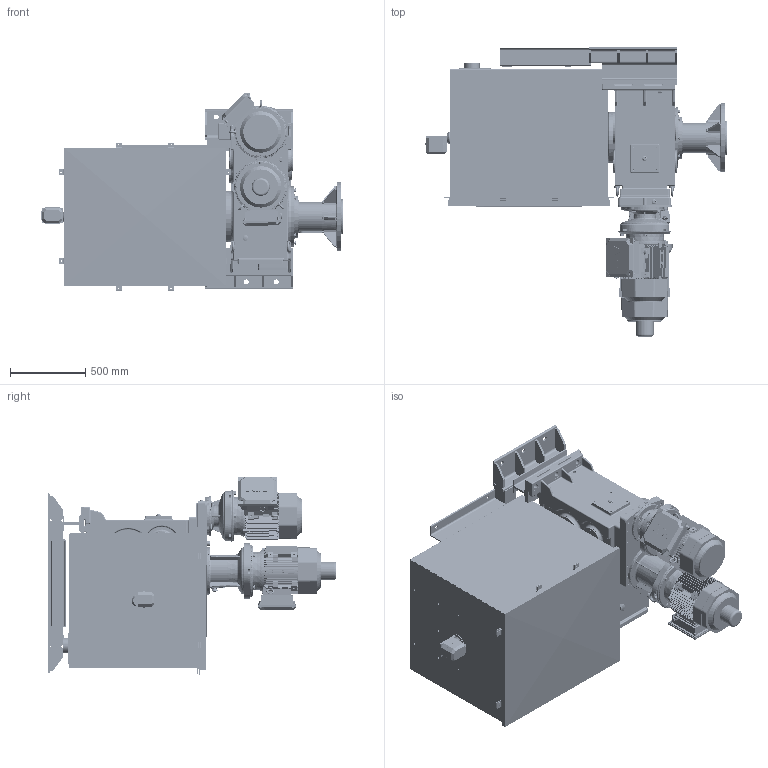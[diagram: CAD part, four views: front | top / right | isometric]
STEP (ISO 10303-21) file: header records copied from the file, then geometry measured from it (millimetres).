
FILE_DESCRIPTION(/* description */ (''),/* implementation_level */ '2;1');
FILE_NAME(/* name */ 'K:\NEMANJA\CABLE REEL\CABLE REEL DA\0700-6\07006005 DA-CRVD\STEP\75968.stp',/* time_stamp */ '2017-03-16T15:19:01+01:00',/* author */ ('zeldjo01'),/* organization */ ('Hillmar Industries Ltd.'),/* preprocessor_version */ 'ST-DEVELOPER v16.1',/* originating_system */ 'Autodesk Inventor 2016',/* authorisation */ '');
FILE_SCHEMA (('AUTOMOTIVE_DESIGN { 1 0 10303 214 3 1 1 }'));
Products named in the file (1): 75968
Bounding box: 2006.74 x 1923.09 x 1317.08 mm (x, y, z)
Volume: 206450542.1 mm3; surface area: 27394478.5 mm2
Topology: 7 solids, 10 shells, 7547 faces, 19224 edges, 12069 vertices
Faces by surface type: plane 3354, cylinder 2086, cone 700, bspline 607, torus 519, sphere 281
Full cylindrical faces by diameter (mm): 8 x5, 8.376 x38, 8.731 x1, 9 x3, 10 x21, 10.106 x46, 10.4 x4, 10.5 x18, 11 x20, 12 x23, 12.5 x3, 13 x18, 13.5 x16, 13.835 x19, 14 x37, 14.3 x8, 14.917 x13, 16 x15, 17 x8, 17.5 x16, 18 x1, 18.256 x1, 19 x8, 20 x5, 20.5 x1, 21.336 x1, 22 x29, 22.225 x1, 23 x2, 23.812 x2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
Entity records: 251663 total; most frequent: CARTESIAN_POINT 69292, DIRECTION 36304, ORIENTED_EDGE 35734, EDGE_CURVE 17842, AXIS2_PLACEMENT_3D 13660, VERTEX_POINT 11554, EDGE_LOOP 9168, LINE 8984
